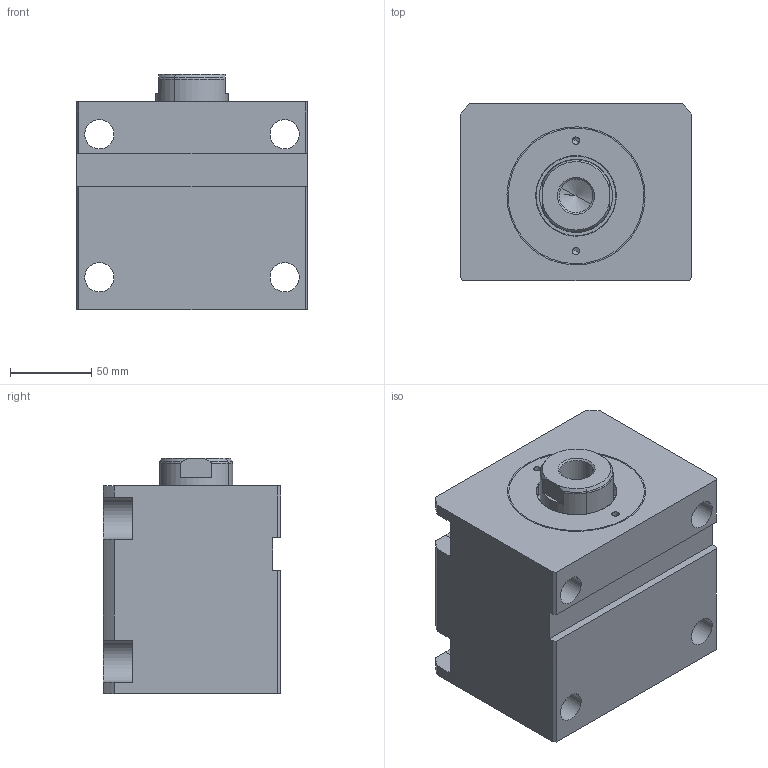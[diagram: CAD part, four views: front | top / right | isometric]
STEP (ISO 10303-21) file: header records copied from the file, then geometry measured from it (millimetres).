
FILE_DESCRIPTION(('CATIA V5 STEP Exchange'),'2;1');
FILE_NAME('\\kjf-102\KJF_TC\Hydraulic_Clamp\Standard\BLOCK_CLAMP\BDx-80xx\BDH-8050_-.stp','2025-10-29T02:16:38+00:00',('none'),('none'),'CATIA Version 5 Release 19 SP 6 (IN-10)','CATIA V5 STEP AP203','none');
FILE_SCHEMA(('CONFIG_CONTROL_DESIGN'));
Length unit declared in the file: millimetre
Products named in the file (1): BDH-80xx_-
Assembly tree (3 placements, depth 2):
  BDH-80xx_-
    #58
    #1720
    #2308
Bounding box: 142 x 109 x 145 mm (x, y, z)
Volume: 1568221.3 mm3; surface area: 190406.5 mm2
Topology: 3 solids, 3 shells, 106 faces, 266 edges, 165 vertices
Faces by surface type: cylinder 46, plane 34, cone 18, torus 8
Entity records: 2911 total; most frequent: CARTESIAN_POINT 518, ORIENTED_EDGE 512, DIRECTION 378, EDGE_CURVE 256, AXIS2_PLACEMENT_3D 183, VERTEX_POINT 165, VECTOR 130, LINE 130
